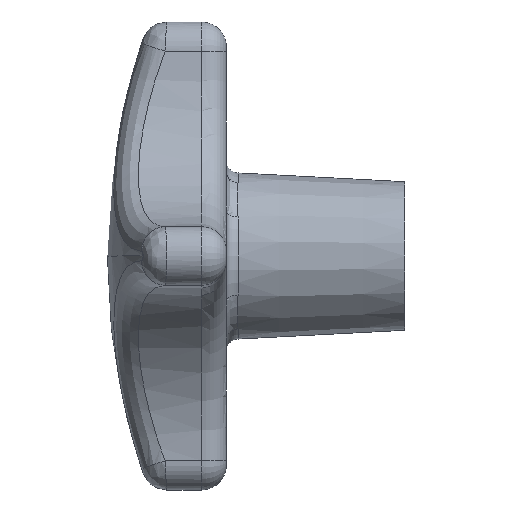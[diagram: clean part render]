
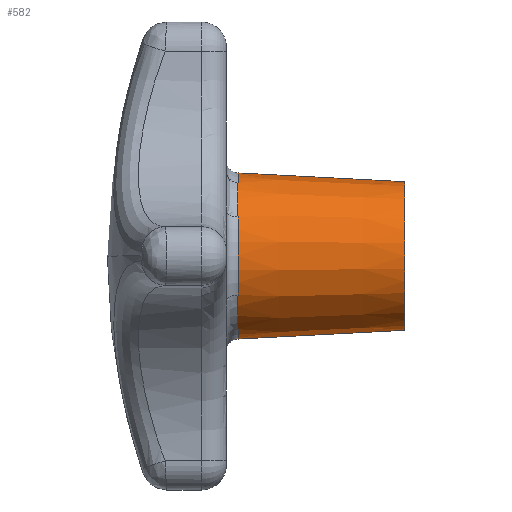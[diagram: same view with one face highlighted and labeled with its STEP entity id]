
A CAD part, left-side view. The second image highlights one B-rep face of the part: STEP entity #582.
In plain terms, the highlighted conical face has half-angle 3 degrees and reference radius 10 mm.
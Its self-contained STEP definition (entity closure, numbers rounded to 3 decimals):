
#7 = CARTESIAN_POINT ( 'NONE',  ( -6.212, -1.559, -9.307 ) ) ;
#16 = AXIS2_PLACEMENT_3D ( 'NONE', #660, #2007, #686 ) ;
#67 = VERTEX_POINT ( 'NONE', #2590 ) ;
#123 = AXIS2_PLACEMENT_3D ( 'NONE', #1067, #826, #1739 ) ;
#139 = EDGE_CURVE ( 'NONE', #1845, #1197, #1992, .T. ) ;
#178 = CARTESIAN_POINT ( 'NONE',  ( -5.256, -1.579, 9.862 ) ) ;
#214 = FACE_OUTER_BOUND ( 'NONE', #1191, .T. ) ;
#230 = DIRECTION ( 'NONE',  ( 0., 0.999, 0.052 ) ) ;
#251 = CONICAL_SURFACE ( 'NONE', #16, 10., 0.052 ) ;
#279 = CIRCLE ( 'NONE', #2382, 10. ) ;
#439 = CARTESIAN_POINT ( 'NONE',  ( 0., -24., 0. ) ) ;
#444 = VERTEX_POINT ( 'NONE', #2298 ) ;
#448 = CARTESIAN_POINT ( 'NONE',  ( -5.746, -1.579, -9.601 ) ) ;
#450 = VERTEX_POINT ( 'NONE', #2098 ) ;
#470 = AXIS2_PLACEMENT_3D ( 'NONE', #2516, #2726, #744 ) ;
#494 = VERTEX_POINT ( 'NONE', #1960 ) ;
#513 = LINE ( 'NONE', #1532, #614 ) ;
#523 = EDGE_CURVE ( 'NONE', #444, #1356, #815, .T. ) ;
#555 = AXIS2_PLACEMENT_3D ( 'NONE', #885, #1732, #1097 ) ;
#582 = ADVANCED_FACE ( 'NONE', ( #214 ), #251, .T. ) ;
#614 = VECTOR ( 'NONE', #230, 1000. ) ;
#660 = CARTESIAN_POINT ( 'NONE',  ( 0., -24., 0. ) ) ;
#667 = CARTESIAN_POINT ( 'NONE',  ( -8.093, -1.511, 7.716 ) ) ;
#679 = CARTESIAN_POINT ( 'NONE',  ( -6.877, -1.533, -8.816 ) ) ;
#684 = ORIENTED_EDGE ( 'NONE', *, *, #2085, .T. ) ;
#686 = DIRECTION ( 'NONE',  ( 0., 0., 1. ) ) ;
#693 = CARTESIAN_POINT ( 'NONE',  ( -7.091, -1.525, 8.658 ) ) ;
#744 = DIRECTION ( 'NONE',  ( 0., 0., -1. ) ) ;
#746 = CIRCLE ( 'NONE', #555, 11.175 ) ;
#769 = ORIENTED_EDGE ( 'NONE', *, *, #2116, .T. ) ;
#812 = CARTESIAN_POINT ( 'NONE',  ( -5.746, -1.579, 9.601 ) ) ;
#815 = LINE ( 'NONE', #1346, #2064 ) ;
#826 = DIRECTION ( 'NONE',  ( 0., -1., 0. ) ) ;
#873 = CARTESIAN_POINT ( 'NONE',  ( -9.307, -1.559, 6.212 ) ) ;
#885 = CARTESIAN_POINT ( 'NONE',  ( 0., -1.579, 0. ) ) ;
#891 = CARTESIAN_POINT ( 'NONE',  ( -7.512, -1.514, -8.283 ) ) ;
#937 = B_SPLINE_CURVE_WITH_KNOTS ( 'NONE', 3,
 ( #1540, #2191, #2621, #1550, #2633, #1993, #891, #1757, #679, #7, #448, #2178 ),
 .UNSPECIFIED., .F., .F.,
 ( 4, 2, 2, 2, 2, 4 ),
 ( 0., 0.002, 0.003, 0.004, 0.005, 0.007 ),
 .UNSPECIFIED. ) ;
#940 = ORIENTED_EDGE ( 'NONE', *, *, #2569, .T. ) ;
#1067 = CARTESIAN_POINT ( 'NONE',  ( 0., -1.579, 0. ) ) ;
#1097 = DIRECTION ( 'NONE',  ( 0., 0., -1. ) ) ;
#1104 = VERTEX_POINT ( 'NONE', #178 ) ;
#1191 = EDGE_LOOP ( 'NONE', ( #2396, #684, #769, #2534, #940, #2813, #1375, #2057 ) ) ;
#1197 = VERTEX_POINT ( 'NONE', #1738 ) ;
#1292 = CARTESIAN_POINT ( 'NONE',  ( -8.283, -1.514, 7.512 ) ) ;
#1316 = CARTESIAN_POINT ( 'NONE',  ( -9.862, -1.579, 5.256 ) ) ;
#1346 = CARTESIAN_POINT ( 'NONE',  ( 0., -24., -10. ) ) ;
#1356 = VERTEX_POINT ( 'NONE', #2107 ) ;
#1375 = ORIENTED_EDGE ( 'NONE', *, *, #2027, .T. ) ;
#1530 = CARTESIAN_POINT ( 'NONE',  ( -8.816, -1.533, 6.877 ) ) ;
#1532 = CARTESIAN_POINT ( 'NONE',  ( 0., -24., 10. ) ) ;
#1536 = DIRECTION ( 'NONE',  ( 0., 0.999, -0.052 ) ) ;
#1540 = CARTESIAN_POINT ( 'NONE',  ( -9.862, -1.579, -5.256 ) ) ;
#1550 = CARTESIAN_POINT ( 'NONE',  ( -8.658, -1.525, -7.091 ) ) ;
#1603 = CIRCLE ( 'NONE', #470, 11.175 ) ;
#1635 = EDGE_CURVE ( 'NONE', #67, #1356, #1603, .T. ) ;
#1714 = CARTESIAN_POINT ( 'NONE',  ( -9.862, -1.579, 5.256 ) ) ;
#1732 = DIRECTION ( 'NONE',  ( 0., -1., 0. ) ) ;
#1738 = CARTESIAN_POINT ( 'NONE',  ( -9.862, -1.579, -5.256 ) ) ;
#1739 = DIRECTION ( 'NONE',  ( 0., 0., -1. ) ) ;
#1757 = CARTESIAN_POINT ( 'NONE',  ( -7.093, -1.525, -8.644 ) ) ;
#1845 = VERTEX_POINT ( 'NONE', #1316 ) ;
#1898 = EDGE_CURVE ( 'NONE', #450, #1104, #746, .T. ) ;
#1960 = CARTESIAN_POINT ( 'NONE',  ( 0., -24., 10. ) ) ;
#1992 = CIRCLE ( 'NONE', #123, 11.175 ) ;
#1993 = CARTESIAN_POINT ( 'NONE',  ( -7.716, -1.511, -8.093 ) ) ;
#2007 = DIRECTION ( 'NONE',  ( 0., 1., 0. ) ) ;
#2010 = CARTESIAN_POINT ( 'NONE',  ( -6.211, -1.559, 9.308 ) ) ;
#2027 = EDGE_CURVE ( 'NONE', #1197, #67, #937, .T. ) ;
#2057 = ORIENTED_EDGE ( 'NONE', *, *, #1635, .T. ) ;
#2064 = VECTOR ( 'NONE', #1536, 1000. ) ;
#2085 = EDGE_CURVE ( 'NONE', #444, #494, #279, .T. ) ;
#2098 = CARTESIAN_POINT ( 'NONE',  ( 0., -1.579, 11.175 ) ) ;
#2107 = CARTESIAN_POINT ( 'NONE',  ( 0., -1.579, -11.175 ) ) ;
#2116 = EDGE_CURVE ( 'NONE', #494, #450, #513, .T. ) ;
#2178 = CARTESIAN_POINT ( 'NONE',  ( -5.256, -1.579, -9.862 ) ) ;
#2190 = CARTESIAN_POINT ( 'NONE',  ( -8.644, -1.525, 7.093 ) ) ;
#2191 = CARTESIAN_POINT ( 'NONE',  ( -9.601, -1.579, -5.746 ) ) ;
#2215 = DIRECTION ( 'NONE',  ( 0., 0., 1. ) ) ;
#2250 = B_SPLINE_CURVE_WITH_KNOTS ( 'NONE', 3,
 ( #2619, #812, #2010, #693, #2834, #667, #1292, #2190, #1530, #873, #2578, #1714 ),
 .UNSPECIFIED., .F., .F.,
 ( 4, 2, 2, 2, 2, 4 ),
 ( 0., 0.002, 0.003, 0.004, 0.005, 0.007 ),
 .UNSPECIFIED. ) ;
#2298 = CARTESIAN_POINT ( 'NONE',  ( 0., -24., -10. ) ) ;
#2382 = AXIS2_PLACEMENT_3D ( 'NONE', #439, #2407, #2215 ) ;
#2396 = ORIENTED_EDGE ( 'NONE', *, *, #523, .F. ) ;
#2407 = DIRECTION ( 'NONE',  ( 0., 1., 0. ) ) ;
#2516 = CARTESIAN_POINT ( 'NONE',  ( 0., -1.579, 0. ) ) ;
#2534 = ORIENTED_EDGE ( 'NONE', *, *, #1898, .T. ) ;
#2569 = EDGE_CURVE ( 'NONE', #1104, #1845, #2250, .T. ) ;
#2578 = CARTESIAN_POINT ( 'NONE',  ( -9.601, -1.579, 5.746 ) ) ;
#2590 = CARTESIAN_POINT ( 'NONE',  ( -5.256, -1.579, -9.862 ) ) ;
#2619 = CARTESIAN_POINT ( 'NONE',  ( -5.256, -1.579, 9.862 ) ) ;
#2621 = CARTESIAN_POINT ( 'NONE',  ( -9.308, -1.559, -6.211 ) ) ;
#2633 = CARTESIAN_POINT ( 'NONE',  ( -8.301, -1.512, -7.507 ) ) ;
#2726 = DIRECTION ( 'NONE',  ( 0., -1., 0. ) ) ;
#2813 = ORIENTED_EDGE ( 'NONE', *, *, #139, .T. ) ;
#2834 = CARTESIAN_POINT ( 'NONE',  ( -7.507, -1.512, 8.301 ) ) ;
